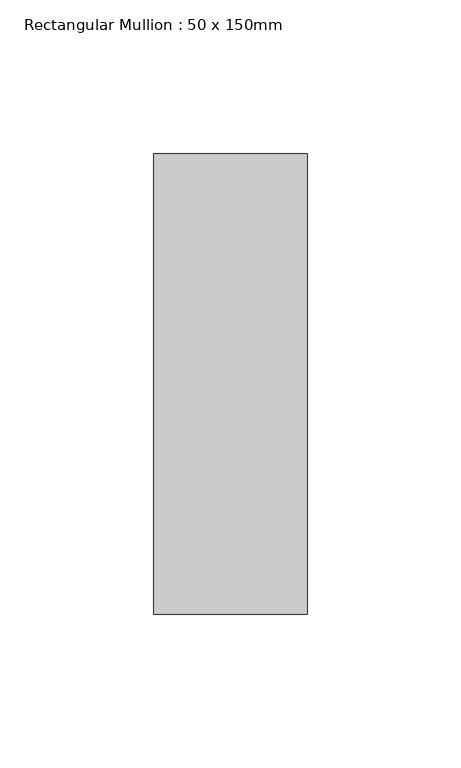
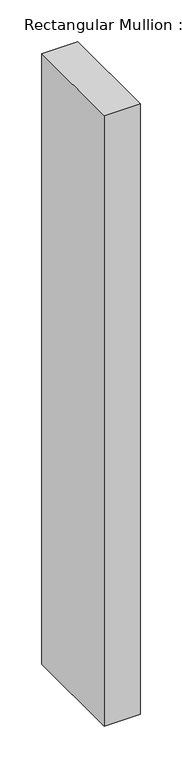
"""IFC4 building model written with IfcOpenShell, lengths in millimetres: member geometry, Rectangular Mullion : 50 x 150mm."""

from ifc_helpers import new_model, si_unit, frame, origin, place, context, project, spatial, polyline, outline, extrude, source, transform, mapped, element, save


def rectangular_mullion_50_x_150mm_4bc3db27(model_context):
    return source(origin(), model_context, "Body", "SweptSolid", [
        extrude(outline(polyline([(25.0, 75.0), (25.0, -75.0), (-25.0, -75.0), (-25.0, 75.0), (25.0, 75.0)])), frame((0.0, 0.0, -895.9999951), z_axis=(0.0, 0.0, 1.0), x_axis=(1.0, 0.0, 0.0)), (0.0, 0.0, 1.0), 895.9999951),
    ])


if __name__ == "__main__":
    model = new_model("IFC4")
    model_context = context("Model", 3, world=origin())
    ifc_project = project(units=[si_unit("LENGTHUNIT", "METRE", prefix="MILLI")], contexts=[model_context])
    site = spatial("IfcSite", under=ifc_project)
    building = spatial("IfcBuilding", under=site)
    placement = place(None, origin())
    rectangular_mullion_50_x_150mm_shape = rectangular_mullion_50_x_150mm_4bc3db27(model_context)
    element("IfcMember", 1, ObjectType="Rectangular Mullion : 50 x 150mm", at=placement, inside=building, context=model_context, shape_type="MappedRepresentation", body=[
        mapped(rectangular_mullion_50_x_150mm_shape, transform((0.0, 0.0, 0.0), x_axis=(1.0, 0.0, 0.0), y_axis=(0.0, 1.0, 0.0), z_axis=(0.0, 0.0, 1.0))),
    ])
    save(model, "model.ifc")
